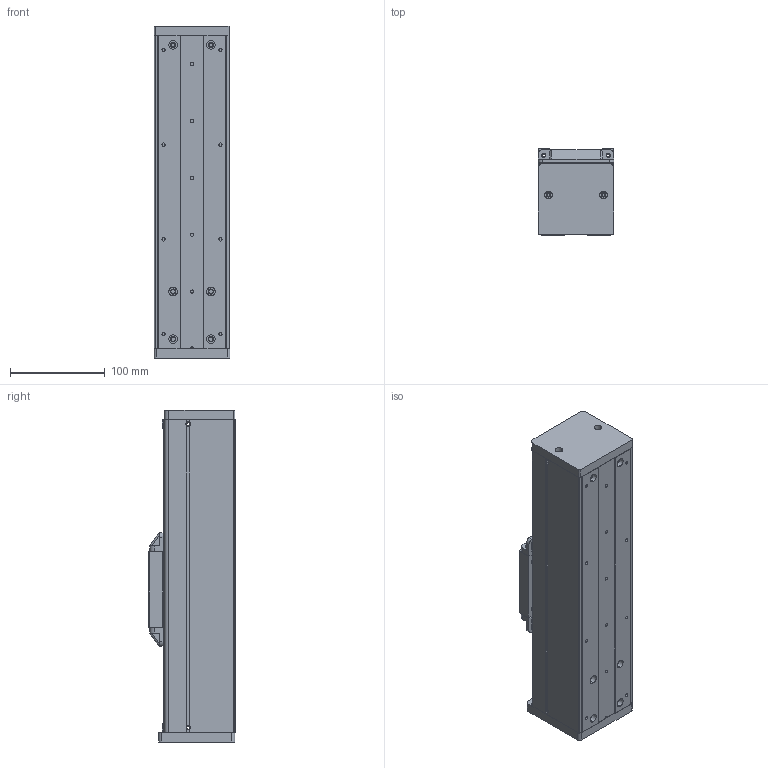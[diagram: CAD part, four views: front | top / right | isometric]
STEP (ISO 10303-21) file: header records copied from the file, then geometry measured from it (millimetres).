
FILE_DESCRIPTION (( 'STEP AP214' ), '1' );
FILE_NAME ('CF80-16-C-100-FW60.STEP', '2016-02-19T02:28:21', ( '' ), ( '' ), 'SwSTEP 2.0', 'SolidWorks 2015', '' );
FILE_SCHEMA (( 'AUTOMOTIVE_DESIGN' ));
Length unit declared in the file: millimetre
Products named in the file (13): CF80耜啣; CF80詩湍; 賑雄輸; CFN80菁釱; EGW15CA賑輸; 詩湍揤啣; CF80-16-C-100-FW60; CF80-60萇儂假蚾啣; CFN80墙板; 賑雄輸裔啣; CF80盓傅釱; CFN80嘐隅釱; EGR15絳寢
Assembly tree (14 placements, depth 2):
  CF80-16-C-100-FW60
    CFN80菁釱
    CFN80墙板  x2
    EGW15CA賑輸
    EGR15絳寢
    CF80盓傅釱
    賑雄輸
    CFN80嘐隅釱
    賑雄輸裔啣
    CF80-60萇儂假蚾啣
    CF80耜啣
    CF80詩湍
    詩湍揤啣  x2
Bounding box: 80.02 x 91 x 350 mm (x, y, z)
Volume: 1042449.4 mm3; surface area: 424326.6 mm2
Topology: 14 solids, 14 shells, 709 faces, 1958 edges, 1296 vertices
Faces by surface type: plane 357, cylinder 344, cone 8
Entity records: 23429 total; most frequent: CARTESIAN_POINT 5519, DIRECTION 3579, ORIENTED_EDGE 3566, EDGE_CURVE 1783, AXIS2_PLACEMENT_3D 1256, VERTEX_POINT 1182, LINE 1067, VECTOR 1067
